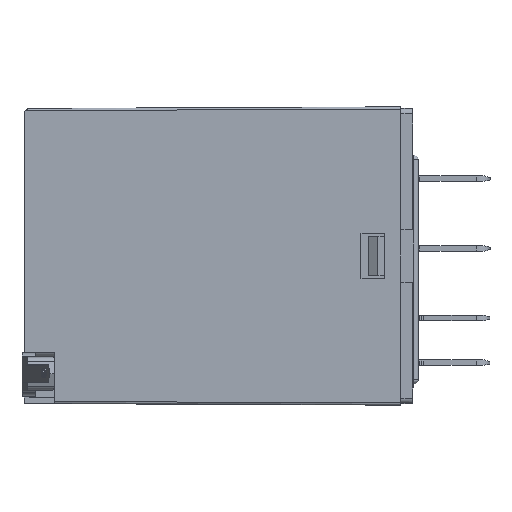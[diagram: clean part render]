
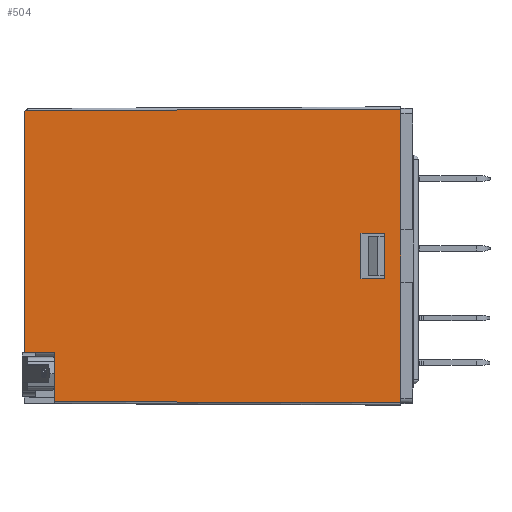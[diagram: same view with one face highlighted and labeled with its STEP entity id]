
A CAD part, left-side view. The second image highlights one B-rep face of the part: STEP entity #504.
In plain terms, the highlighted planar face has unit normal (-1, 0.004, 0).
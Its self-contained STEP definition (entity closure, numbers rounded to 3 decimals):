
#6 = VERTEX_POINT ( 'NONE', #16219 ) ;
#504 = ADVANCED_FACE ( 'NONE', ( #523, #20026 ), #6184, .T. ) ;
#523 = FACE_OUTER_BOUND ( 'NONE', #19775, .T. ) ;
#1042 = LINE ( 'NONE', #10766, #21143 ) ;
#1185 = EDGE_CURVE ( 'NONE', #19663, #15901, #19406, .T. ) ;
#1524 = DIRECTION ( 'NONE',  ( -0.004, -1., 0. ) ) ;
#1883 = EDGE_CURVE ( 'NONE', #4904, #15469, #23891, .T. ) ;
#2221 = ORIENTED_EDGE ( 'NONE', *, *, #9987, .F. ) ;
#2349 = DIRECTION ( 'NONE',  ( 0., 0., 1. ) ) ;
#2359 = EDGE_CURVE ( 'NONE', #15232, #14319, #4214, .T. ) ;
#2845 = DIRECTION ( 'NONE',  ( 0.003, 0.798, -0.602 ) ) ;
#3019 = EDGE_LOOP ( 'NONE', ( #18535, #10014, #17229, #12105 ) ) ;
#3073 = CARTESIAN_POINT ( 'NONE',  ( -10.349, 35.758, 13.205 ) ) ;
#3137 = LINE ( 'NONE', #10834, #8919 ) ;
#3178 = LINE ( 'NONE', #3446, #23276 ) ;
#3446 = CARTESIAN_POINT ( 'NONE',  ( -10.361, 32.9, 13.7 ) ) ;
#3555 = DIRECTION ( 'NONE',  ( 0., 0., 1. ) ) ;
#3613 = VERTEX_POINT ( 'NONE', #15555 ) ;
#3681 = CARTESIAN_POINT ( 'NONE',  ( -10.5, 1.1, 2.1 ) ) ;
#4214 = LINE ( 'NONE', #21747, #19759 ) ;
#4606 = CARTESIAN_POINT ( 'NONE',  ( -10.494, 2.55, 13.7 ) ) ;
#4797 = VECTOR ( 'NONE', #1524, 1000. ) ;
#4904 = VERTEX_POINT ( 'NONE', #10874 ) ;
#4910 = VECTOR ( 'NONE', #15604, 1000. ) ;
#5312 = EDGE_CURVE ( 'NONE', #18891, #8463, #1042, .T. ) ;
#5352 = CARTESIAN_POINT ( 'NONE',  ( -10.361, 32.899, -8.89 ) ) ;
#5516 = DIRECTION ( 'NONE',  ( 0., 0., 1. ) ) ;
#5642 = DIRECTION ( 'NONE',  ( -0.004, -1., 0. ) ) ;
#6184 = PLANE ( 'NONE',  #6610 ) ;
#6393 = CARTESIAN_POINT ( 'NONE',  ( -10.5, 1.1, 13.7 ) ) ;
#6610 = AXIS2_PLACEMENT_3D ( 'NONE', #23193, #7732, #3555 ) ;
#7162 = CARTESIAN_POINT ( 'NONE',  ( -10.349, 35.7, -8.89 ) ) ;
#7614 = VECTOR ( 'NONE', #5642, 1000. ) ;
#7732 = DIRECTION ( 'NONE',  ( -1., 0.004, 0. ) ) ;
#7787 = CARTESIAN_POINT ( 'NONE',  ( -10.5, 1.1, -13.5 ) ) ;
#7825 = CARTESIAN_POINT ( 'NONE',  ( -10.484, 4.75, -2.1 ) ) ;
#7896 = LINE ( 'NONE', #16000, #23399 ) ;
#8463 = VERTEX_POINT ( 'NONE', #18597 ) ;
#8509 = DIRECTION ( 'NONE',  ( 0., 0., -1. ) ) ;
#8882 = DIRECTION ( 'NONE',  ( 0.004, 1., -0.004 ) ) ;
#8918 = CARTESIAN_POINT ( 'NONE',  ( -10.5, 1.1, 2.4 ) ) ;
#8919 = VECTOR ( 'NONE', #8882, 1000. ) ;
#9225 = CARTESIAN_POINT ( 'NONE',  ( -10.5, 1.1, 13.7 ) ) ;
#9303 = VECTOR ( 'NONE', #5516, 1000. ) ;
#9987 = EDGE_CURVE ( 'NONE', #12386, #15469, #7896, .T. ) ;
#10014 = ORIENTED_EDGE ( 'NONE', *, *, #18886, .T. ) ;
#10051 = LINE ( 'NONE', #17550, #4910 ) ;
#10290 = EDGE_CURVE ( 'NONE', #6, #19663, #3178, .T. ) ;
#10766 = CARTESIAN_POINT ( 'NONE',  ( -10.484, 4.75, 13.7 ) ) ;
#10834 = CARTESIAN_POINT ( 'NONE',  ( -10.5, 1.099, 13.5 ) ) ;
#10874 = CARTESIAN_POINT ( 'NONE',  ( -10.35, 35.567, 13.35 ) ) ;
#10987 = LINE ( 'NONE', #6393, #12854 ) ;
#11481 = EDGE_CURVE ( 'NONE', #14319, #4904, #3137, .T. ) ;
#11974 = CARTESIAN_POINT ( 'NONE',  ( -10.349, 35.7, 13.249 ) ) ;
#12105 = ORIENTED_EDGE ( 'NONE', *, *, #14466, .T. ) ;
#12321 = EDGE_CURVE ( 'NONE', #3613, #24634, #24090, .T. ) ;
#12386 = VERTEX_POINT ( 'NONE', #7162 ) ;
#12509 = CARTESIAN_POINT ( 'NONE',  ( -10.499, 1.219, -13.499 ) ) ;
#12791 = LINE ( 'NONE', #3681, #7614 ) ;
#12854 = VECTOR ( 'NONE', #17987, 1000. ) ;
#13795 = VECTOR ( 'NONE', #8509, 1000. ) ;
#14319 = VERTEX_POINT ( 'NONE', #24497 ) ;
#14466 = EDGE_CURVE ( 'NONE', #8463, #3613, #12791, .T. ) ;
#14528 = LINE ( 'NONE', #9225, #9303 ) ;
#14852 = VECTOR ( 'NONE', #16618, 1000. ) ;
#15190 = LINE ( 'NONE', #5352, #4797 ) ;
#15232 = VERTEX_POINT ( 'NONE', #8918 ) ;
#15295 = ORIENTED_EDGE ( 'NONE', *, *, #2359, .T. ) ;
#15305 = CARTESIAN_POINT ( 'NONE',  ( -10.5, 1.1, -2.4 ) ) ;
#15469 = VERTEX_POINT ( 'NONE', #11974 ) ;
#15555 = CARTESIAN_POINT ( 'NONE',  ( -10.494, 2.55, 2.1 ) ) ;
#15604 = DIRECTION ( 'NONE',  ( 0.004, 1., 0. ) ) ;
#15901 = VERTEX_POINT ( 'NONE', #7787 ) ;
#16000 = CARTESIAN_POINT ( 'NONE',  ( -10.349, 35.7, 13.7 ) ) ;
#16219 = CARTESIAN_POINT ( 'NONE',  ( -10.361, 32.9, -8.89 ) ) ;
#16618 = DIRECTION ( 'NONE',  ( -0.004, -1., -0.004 ) ) ;
#16876 = EDGE_CURVE ( 'NONE', #12386, #6, #15190, .T. ) ;
#17103 = DIRECTION ( 'NONE',  ( 0., 0., -1. ) ) ;
#17229 = ORIENTED_EDGE ( 'NONE', *, *, #5312, .T. ) ;
#17550 = CARTESIAN_POINT ( 'NONE',  ( -10.5, 1.1, -2.1 ) ) ;
#17590 = ORIENTED_EDGE ( 'NONE', *, *, #1883, .T. ) ;
#17987 = DIRECTION ( 'NONE',  ( 0., 0., 1. ) ) ;
#18164 = VECTOR ( 'NONE', #2845, 1000. ) ;
#18516 = CARTESIAN_POINT ( 'NONE',  ( -10.494, 2.55, -2.1 ) ) ;
#18535 = ORIENTED_EDGE ( 'NONE', *, *, #12321, .T. ) ;
#18546 = EDGE_CURVE ( 'NONE', #15901, #20230, #10987, .T. ) ;
#18597 = CARTESIAN_POINT ( 'NONE',  ( -10.484, 4.75, 2.1 ) ) ;
#18870 = CARTESIAN_POINT ( 'NONE',  ( -10.361, 32.9, -13.361 ) ) ;
#18886 = EDGE_CURVE ( 'NONE', #24634, #18891, #10051, .T. ) ;
#18891 = VERTEX_POINT ( 'NONE', #7825 ) ;
#18953 = ORIENTED_EDGE ( 'NONE', *, *, #1185, .T. ) ;
#19406 = LINE ( 'NONE', #12509, #14852 ) ;
#19663 = VERTEX_POINT ( 'NONE', #18870 ) ;
#19759 = VECTOR ( 'NONE', #21784, 1000. ) ;
#19775 = EDGE_LOOP ( 'NONE', ( #23368, #22362, #15295, #21733, #17590, #2221, #24014, #22252, #18953 ) ) ;
#20026 = FACE_BOUND ( 'NONE', #3019, .T. ) ;
#20230 = VERTEX_POINT ( 'NONE', #15305 ) ;
#21143 = VECTOR ( 'NONE', #22421, 1000. ) ;
#21733 = ORIENTED_EDGE ( 'NONE', *, *, #11481, .T. ) ;
#21747 = CARTESIAN_POINT ( 'NONE',  ( -10.5, 1.1, 13.7 ) ) ;
#21784 = DIRECTION ( 'NONE',  ( 0., 0., 1. ) ) ;
#22252 = ORIENTED_EDGE ( 'NONE', *, *, #10290, .T. ) ;
#22362 = ORIENTED_EDGE ( 'NONE', *, *, #22404, .T. ) ;
#22404 = EDGE_CURVE ( 'NONE', #20230, #15232, #14528, .T. ) ;
#22421 = DIRECTION ( 'NONE',  ( 0., 0., 1. ) ) ;
#23193 = CARTESIAN_POINT ( 'NONE',  ( -10.5, 1.1, 13.7 ) ) ;
#23276 = VECTOR ( 'NONE', #17103, 1000. ) ;
#23368 = ORIENTED_EDGE ( 'NONE', *, *, #18546, .T. ) ;
#23399 = VECTOR ( 'NONE', #2349, 1000. ) ;
#23891 = LINE ( 'NONE', #3073, #18164 ) ;
#24014 = ORIENTED_EDGE ( 'NONE', *, *, #16876, .T. ) ;
#24090 = LINE ( 'NONE', #4606, #13795 ) ;
#24497 = CARTESIAN_POINT ( 'NONE',  ( -10.5, 1.1, 13.5 ) ) ;
#24634 = VERTEX_POINT ( 'NONE', #18516 ) ;
